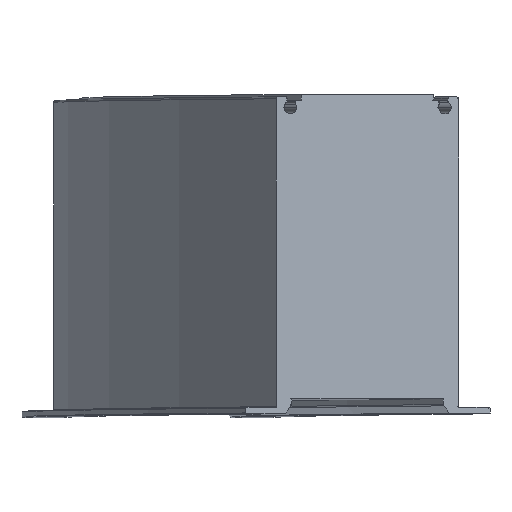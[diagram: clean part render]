
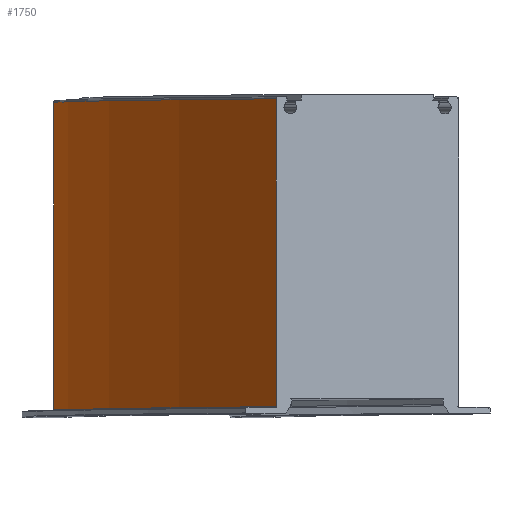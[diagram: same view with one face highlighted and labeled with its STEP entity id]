
A CAD part, top view. The second image highlights one B-rep face of the part: STEP entity #1750.
In plain terms, the highlighted cylindrical face has radius 2923.5 mm (diameter 5847 mm), a partial arc.
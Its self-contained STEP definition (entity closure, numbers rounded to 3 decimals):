
#29 = ORIENTED_EDGE ( 'NONE', *, *, #800, .F. ) ;
#107 = DIRECTION ( 'NONE',  ( -1., 0., 0. ) ) ;
#207 = CARTESIAN_POINT ( 'NONE',  ( 2900., 0., 0. ) ) ;
#222 = VECTOR ( 'NONE', #486, 1000. ) ;
#257 = ORIENTED_EDGE ( 'NONE', *, *, #867, .F. ) ;
#325 = LINE ( 'NONE', #705, #1422 ) ;
#404 = CARTESIAN_POINT ( 'NONE',  ( -23.5, 1.8, 0. ) ) ;
#476 = DIRECTION ( 'NONE',  ( -1., 0., 0. ) ) ;
#486 = DIRECTION ( 'NONE',  ( 0., -1., 0. ) ) ;
#489 = AXIS2_PLACEMENT_3D ( 'NONE', #1516, #1072, #476 ) ;
#569 = ORIENTED_EDGE ( 'NONE', *, *, #1605, .T. ) ;
#587 = CIRCLE ( 'NONE', #610, 2923.5 ) ;
#595 = AXIS2_PLACEMENT_3D ( 'NONE', #207, #1271, #1870 ) ;
#610 = AXIS2_PLACEMENT_3D ( 'NONE', #857, #1013, #107 ) ;
#679 = CARTESIAN_POINT ( 'NONE',  ( 32.674, 1.8, 570.347 ) ) ;
#702 = VERTEX_POINT ( 'NONE', #404 ) ;
#705 = CARTESIAN_POINT ( 'NONE',  ( 32.674, 1.8, 570.347 ) ) ;
#750 = EDGE_CURVE ( 'NONE', #702, #1238, #587, .T. ) ;
#779 = CYLINDRICAL_SURFACE ( 'NONE', #595, 2923.5 ) ;
#800 = EDGE_CURVE ( 'NONE', #1670, #1238, #325, .T. ) ;
#857 = CARTESIAN_POINT ( 'NONE',  ( 2900., 1.8, 0. ) ) ;
#867 = EDGE_CURVE ( 'NONE', #1499, #1670, #1034, .T. ) ;
#1010 = ORIENTED_EDGE ( 'NONE', *, *, #750, .T. ) ;
#1013 = DIRECTION ( 'NONE',  ( 0., 1., 0. ) ) ;
#1034 = CIRCLE ( 'NONE', #489, 2923.5 ) ;
#1069 = EDGE_LOOP ( 'NONE', ( #1010, #29, #257, #569 ) ) ;
#1072 = DIRECTION ( 'NONE',  ( 0., 1., 0. ) ) ;
#1238 = VERTEX_POINT ( 'NONE', #679 ) ;
#1250 = LINE ( 'NONE', #1665, #222 ) ;
#1271 = DIRECTION ( 'NONE',  ( 0., 1., 0. ) ) ;
#1346 = DIRECTION ( 'NONE',  ( 0., -1., 0. ) ) ;
#1395 = CARTESIAN_POINT ( 'NONE',  ( 32.674, 79.5, 570.347 ) ) ;
#1422 = VECTOR ( 'NONE', #1346, 1000. ) ;
#1499 = VERTEX_POINT ( 'NONE', #1925 ) ;
#1516 = CARTESIAN_POINT ( 'NONE',  ( 2900., 79.5, 0. ) ) ;
#1605 = EDGE_CURVE ( 'NONE', #1499, #702, #1250, .T. ) ;
#1665 = CARTESIAN_POINT ( 'NONE',  ( -23.5, 1.8, 0. ) ) ;
#1670 = VERTEX_POINT ( 'NONE', #1395 ) ;
#1750 = ADVANCED_FACE ( 'NONE', ( #1783 ), #779, .T. ) ;
#1783 = FACE_OUTER_BOUND ( 'NONE', #1069, .T. ) ;
#1870 = DIRECTION ( 'NONE',  ( 0., 0., 1. ) ) ;
#1925 = CARTESIAN_POINT ( 'NONE',  ( -23.5, 79.5, 0. ) ) ;
